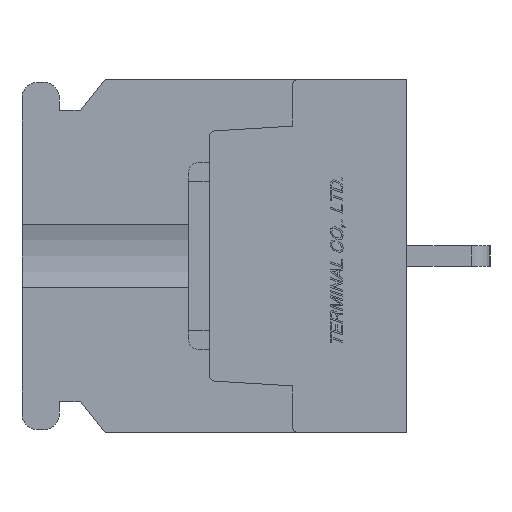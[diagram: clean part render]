
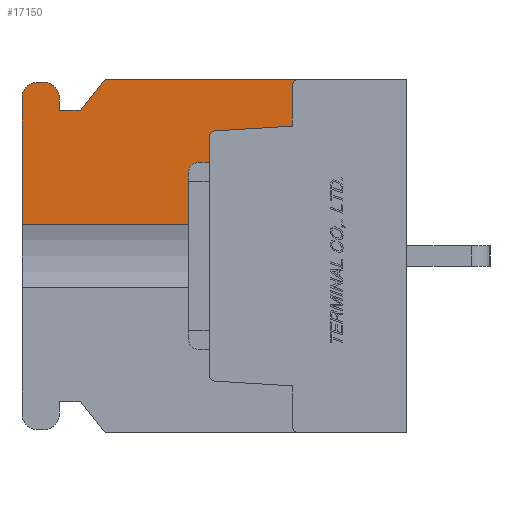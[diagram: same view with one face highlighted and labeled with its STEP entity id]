
A CAD part, left-side view. The second image highlights one B-rep face of the part: STEP entity #17150.
In plain terms, the highlighted planar face has unit normal (-1, 0, 0).
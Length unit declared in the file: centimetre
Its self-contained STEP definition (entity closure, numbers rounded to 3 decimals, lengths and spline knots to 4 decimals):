
#1509=VECTOR('',#19762,1.);
#1511=VECTOR('',#19765,1.);
#1513=VECTOR('',#19772,1.);
#1514=VECTOR('',#19773,1.);
#1515=VECTOR('',#19774,1.);
#1516=VECTOR('',#19775,1.);
#1517=VECTOR('',#19776,1.);
#1518=VECTOR('',#19779,1.);
#1519=VECTOR('',#19782,1.);
#1520=VECTOR('',#19783,1.);
#3391=LINE('',#25645,#1509);
#3393=LINE('',#25649,#1511);
#3395=LINE('',#25655,#1513);
#3396=LINE('',#25657,#1514);
#3397=LINE('',#25659,#1515);
#3398=LINE('',#25661,#1516);
#3399=LINE('',#25663,#1517);
#3400=LINE('',#25667,#1518);
#3401=LINE('',#25671,#1519);
#3402=LINE('',#25673,#1520);
#5297=VERTEX_POINT('',#25638);
#5298=VERTEX_POINT('',#25640);
#5299=VERTEX_POINT('',#25644);
#5300=VERTEX_POINT('',#25648);
#5301=VERTEX_POINT('',#25652);
#5302=VERTEX_POINT('',#25656);
#5303=VERTEX_POINT('',#25658);
#5304=VERTEX_POINT('',#25660);
#5305=VERTEX_POINT('',#25662);
#5306=VERTEX_POINT('',#25664);
#5307=VERTEX_POINT('',#25666);
#5308=VERTEX_POINT('',#25668);
#5309=VERTEX_POINT('',#25670);
#5310=VERTEX_POINT('',#25672);
#6294=CIRCLE('',#29097,0.03);
#6295=CIRCLE('',#29101,0.03);
#6296=CIRCLE('',#29103,0.075);
#6297=CIRCLE('',#29104,0.075);
#7850=EDGE_CURVE('',#5298,#5297,#6294,.T.);
#7853=EDGE_CURVE('',#5297,#5299,#3391,.T.);
#7855=EDGE_CURVE('',#5299,#5300,#3393,.T.);
#7857=EDGE_CURVE('',#5300,#5301,#6295,.T.);
#7858=EDGE_CURVE('',#5302,#5298,#3395,.T.);
#7859=EDGE_CURVE('',#5303,#5301,#3396,.T.);
#7860=EDGE_CURVE('',#5304,#5303,#3397,.T.);
#7861=EDGE_CURVE('',#5305,#5304,#3398,.T.);
#7862=EDGE_CURVE('',#5306,#5305,#3399,.T.);
#7863=EDGE_CURVE('',#5307,#5306,#6296,.T.);
#7864=EDGE_CURVE('',#5308,#5307,#3400,.T.);
#7865=EDGE_CURVE('',#5309,#5308,#6297,.T.);
#7866=EDGE_CURVE('',#5310,#5309,#3401,.T.);
#7867=EDGE_CURVE('',#5310,#5302,#3402,.T.);
#11631=ORIENTED_EDGE('',*,*,#7858,.T.);
#11632=ORIENTED_EDGE('',*,*,#7850,.T.);
#11633=ORIENTED_EDGE('',*,*,#7853,.T.);
#11634=ORIENTED_EDGE('',*,*,#7855,.T.);
#11635=ORIENTED_EDGE('',*,*,#7857,.T.);
#11636=ORIENTED_EDGE('',*,*,#7859,.F.);
#11637=ORIENTED_EDGE('',*,*,#7860,.F.);
#11638=ORIENTED_EDGE('',*,*,#7861,.F.);
#11639=ORIENTED_EDGE('',*,*,#7862,.F.);
#11640=ORIENTED_EDGE('',*,*,#7863,.F.);
#11641=ORIENTED_EDGE('',*,*,#7864,.F.);
#11642=ORIENTED_EDGE('',*,*,#7865,.F.);
#11643=ORIENTED_EDGE('',*,*,#7866,.F.);
#11644=ORIENTED_EDGE('',*,*,#7867,.T.);
#15036=EDGE_LOOP('',(#11631,#11632,#11633,#11634,#11635,#11636,#11637,#11638,
#11639,#11640,#11641,#11642,#11643,#11644));
#16120=FACE_BOUND('',#15036,.T.);
#17150=ADVANCED_FACE('',(#16120),#17982,.F.);
#17982=PLANE('',#29102);
#19757=DIRECTION('',(1.,0.,0.));
#19758=DIRECTION('',(0.,0.,0.03));
#19762=DIRECTION('',(0.,-0.998,0.061));
#19765=DIRECTION('',(0.,0.,1.));
#19769=DIRECTION('',(1.,0.,0.));
#19770=DIRECTION('',(0.,0.,0.03));
#19771=DIRECTION('',(1.,0.,0.));
#19772=DIRECTION('',(0.,0.,1.));
#19773=DIRECTION('',(0.,-1.,0.));
#19774=DIRECTION('',(0.,-0.625,0.781));
#19775=DIRECTION('',(0.,-1.,0.));
#19776=DIRECTION('',(0.,0.,-1.));
#19777=DIRECTION('',(1.,0.,0.));
#19778=DIRECTION('',(0.,0.,-0.075));
#19779=DIRECTION('',(0.,-1.,0.));
#19780=DIRECTION('',(1.,0.,0.));
#19781=DIRECTION('',(0.,0.,-0.075));
#19782=DIRECTION('',(0.,0.,1.));
#19783=DIRECTION('',(0.,-1.,0.));
#25638=CARTESIAN_POINT('',(-1.1,0.9218,0.6017));
#25639=CARTESIAN_POINT('',(-1.1,0.92,0.5718));
#25640=CARTESIAN_POINT('',(-1.1,0.95,0.5718));
#25644=CARTESIAN_POINT('',(-1.1,0.55,0.6245));
#25645=CARTESIAN_POINT('',(-1.1,0.859,0.6056));
#25648=CARTESIAN_POINT('',(-1.1,0.55,0.82));
#25649=CARTESIAN_POINT('',(-1.1,0.55,0.3611));
#25652=CARTESIAN_POINT('',(-1.1,0.52,0.85));
#25653=CARTESIAN_POINT('',(-1.1,0.52,0.82));
#25654=CARTESIAN_POINT('',(-1.1,0.9454,0.));
#25655=CARTESIAN_POINT('',(-1.1,0.95,0.));
#25656=CARTESIAN_POINT('',(-1.1,0.95,0.1521));
#25657=CARTESIAN_POINT('',(-1.1,1.45,0.85));
#25658=CARTESIAN_POINT('',(-1.1,1.45,0.85));
#25659=CARTESIAN_POINT('',(-1.1,1.57,0.7));
#25660=CARTESIAN_POINT('',(-1.1,1.57,0.7));
#25661=CARTESIAN_POINT('',(-1.1,1.67,0.7));
#25662=CARTESIAN_POINT('',(-1.1,1.67,0.7));
#25663=CARTESIAN_POINT('',(-1.1,1.67,0.76));
#25664=CARTESIAN_POINT('',(-1.1,1.67,0.76));
#25665=CARTESIAN_POINT('',(-1.1,1.745,0.76));
#25666=CARTESIAN_POINT('',(-1.1,1.745,0.835));
#25667=CARTESIAN_POINT('',(-1.1,1.775,0.835));
#25668=CARTESIAN_POINT('',(-1.1,1.775,0.835));
#25669=CARTESIAN_POINT('',(-1.1,1.775,0.76));
#25670=CARTESIAN_POINT('',(-1.1,1.85,0.76));
#25671=CARTESIAN_POINT('',(-1.1,1.85,-0.76));
#25672=CARTESIAN_POINT('',(-1.1,1.85,0.1521));
#25673=CARTESIAN_POINT('',(-1.1,1.4,0.1521));
#29097=AXIS2_PLACEMENT_3D('',#25639,#19757,#19758);
#29101=AXIS2_PLACEMENT_3D('',#25653,#19769,#19770);
#29102=AXIS2_PLACEMENT_3D('',#25654,#19771,$);
#29103=AXIS2_PLACEMENT_3D('',#25665,#19777,#19778);
#29104=AXIS2_PLACEMENT_3D('',#25669,#19780,#19781);
